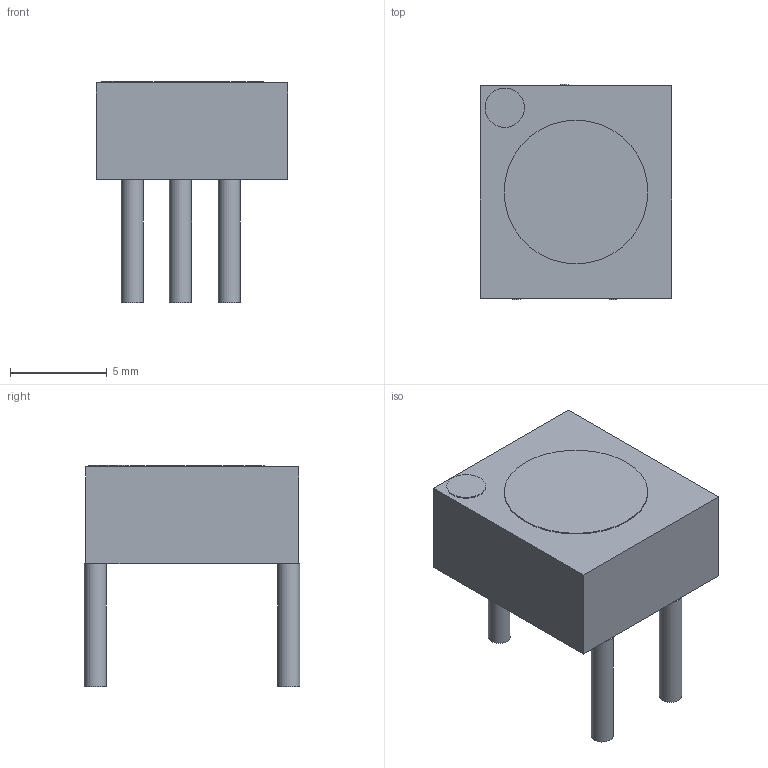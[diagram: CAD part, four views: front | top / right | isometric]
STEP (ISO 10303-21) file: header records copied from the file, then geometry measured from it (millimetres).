
FILE_DESCRIPTION(('STEP AP214'),'1');
FILE_NAME('POT_CB10V_TYCO_TYC','2021-03-09T12:40:41',(''),(''),'','','');
FILE_SCHEMA(('AUTOMOTIVE_DESIGN'));
Length unit declared in the file: millimetre
Products named in the file (1): product
Bounding box: 9.91 x 11.15 x 11.43 mm (x, y, z)
Volume: 567.1 mm3; surface area: 596.4 mm2
Topology: 6 solids, 6 shells, 21 faces, 27 edges, 18 vertices
Faces by surface type: plane 16, cylinder 5
Full cylindrical faces by diameter (mm): 1.143 x3, 2.032 x1, 7.429 x1
Entity records: 494 total; most frequent: DIRECTION 86, CARTESIAN_POINT 55, ORIENTED_EDGE 44, AXIS2_PLACEMENT_3D 37, EDGE_LOOP 26, EDGE_CURVE 22, ADVANCED_FACE 21, FACE_OUTER_BOUND 21
